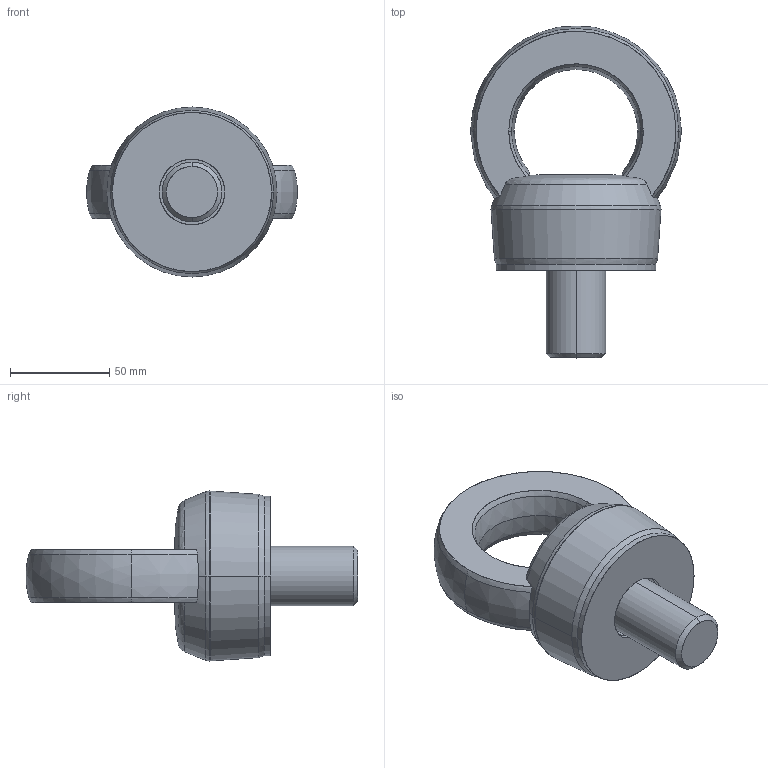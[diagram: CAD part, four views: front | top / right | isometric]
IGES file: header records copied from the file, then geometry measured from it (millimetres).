
Start section: START RECORD GO HERE.
Global section: file name: C817X30.igs; native system: DASSAULT SYSTEMES CATIA V5 R20 - www.3ds.com; preprocessor: CATIA Version 5 Release 20 ; author: r.borello; organization: CFTORINO; date: 20190701.092358; units: millimetre
Bounding box: 106 x 166.83 x 85.45 mm (x, y, z)
Surface area: 53398.4 mm2 (no closed solid volume)
Topology: 0 solids, 0 shells, 66 faces, 316 edges, 316 vertices
Faces by surface type: revolution 51, extrusion 15
